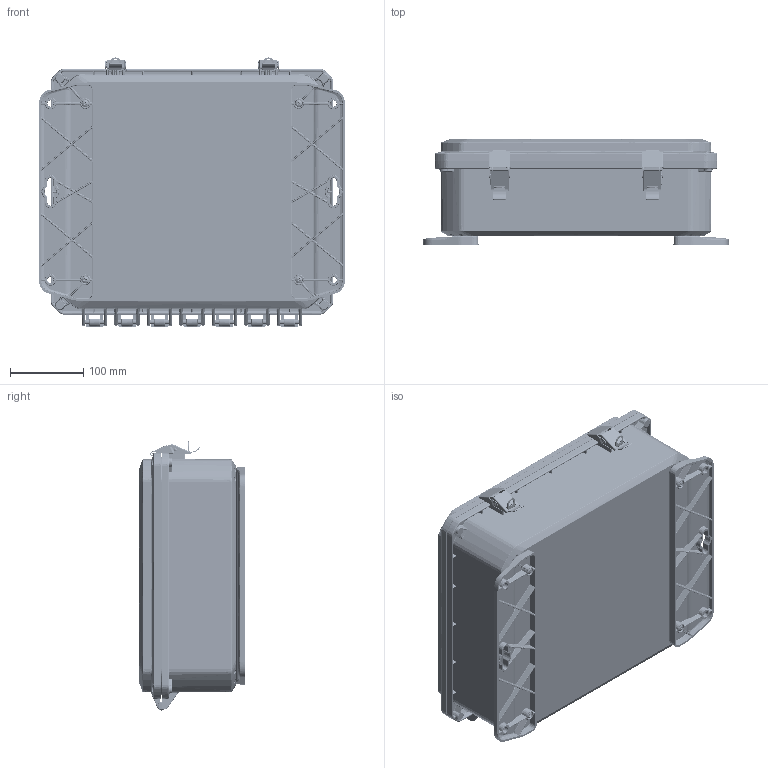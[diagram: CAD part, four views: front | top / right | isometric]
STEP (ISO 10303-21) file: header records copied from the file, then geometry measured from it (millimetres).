
FILE_DESCRIPTION (( 'STEP AP214' ), '1' );
FILE_NAME ('ZH-141204-06.STEP', '2024-10-25T19:27:44', ( '' ), ( '' ), 'SwSTEP 2.0', 'SolidWorks 2024', '' );
FILE_SCHEMA (( 'AUTOMOTIVE_DESIGN' ));
Length unit declared in the file: inch
Products named in the file (17): ZH-01L4; INSERTS-4; ZH-12F_ZH-12F-01; Z_-14124B_ZH-14124B-01; ZH-01L2; Z_-14121CG_ZH-14121CG-02; ZH-01L; ZH-01L5; ZH-01L1; ZH-141204-06; ZH-01L3; ZH-1412G; Z_-14124BI_ZH-14124BI-01; SCREWS-046_SCREWS-046; LABEL-104; ZH-95P_DEFAULT; Z_-14121C_ZH-14121C-02
Assembly tree (35 placements, depth 3):
  ZH-141204-06
    Z_-14124BI_ZH-14124BI-01
      Z_-14124B_ZH-14124B-01
      INSERTS-4  x12
      LABEL-104
    Z_-14121CG_ZH-14121CG-02
      Z_-14121C_ZH-14121C-02
      ZH-1412G
    ZH-95P_DEFAULT  x4
    ZH-01L  x2
      ZH-01L1
      ZH-01L2
      ZH-01L3
      ZH-01L4
      ZH-01L5
    SCREWS-046_SCREWS-046  x4
    ZH-12F_ZH-12F-01  x2
Bounding box: 419.1 x 145.34 x 368.26 mm (x, y, z)
Volume: 2293629.2 mm3; surface area: 1138392.2 mm2
Topology: 40 solids, 40 shells, 10111 faces, 24689 edges, 14440 vertices
Faces by surface type: bspline 3163, cylinder 2278, plane 2054, cone 1434, torus 1098, sphere 84
Entity records: 347032 total; most frequent: CARTESIAN_POINT 201502, ORIENTED_EDGE 33760, DIRECTION 26559, EDGE_CURVE 16880, AXIS2_PLACEMENT_3D 10831, VERTEX_POINT 9869, EDGE_LOOP 7385, ADVANCED_FACE 7176
